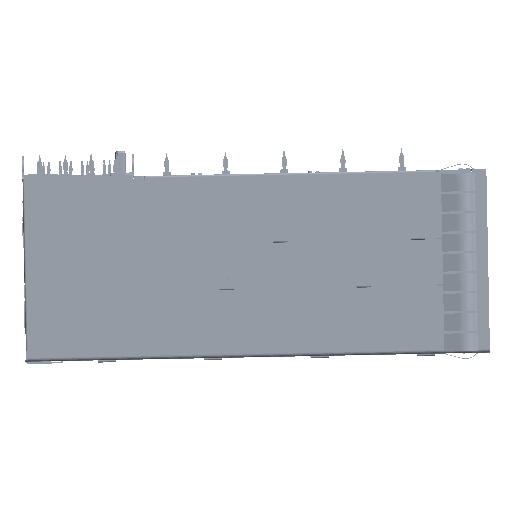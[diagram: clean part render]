
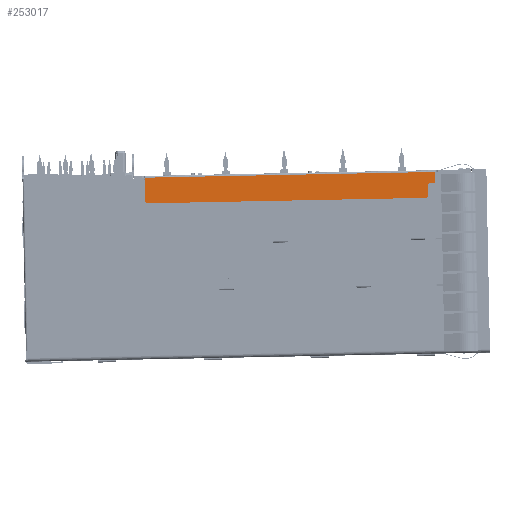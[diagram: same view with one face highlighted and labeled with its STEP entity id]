
A CAD part, left-side view. The second image highlights one B-rep face of the part: STEP entity #253017.
In plain terms, the highlighted planar face has unit normal (-1, 0, 0).
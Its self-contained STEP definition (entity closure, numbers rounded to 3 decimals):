
#75224=DIRECTION('',(0.,-0.02,-1.));
#75225=VECTOR('',#75224,3.5);
#75226=CARTESIAN_POINT('',(0.45,-11.218,23.562));
#75227=LINE('',#75226,#75225);
#75240=DIRECTION('',(0.,-1.,0.02));
#75241=VECTOR('',#75240,39.5);
#75242=CARTESIAN_POINT('',(0.45,-11.218,23.562));
#75243=LINE('',#75242,#75241);
#75244=CARTESIAN_POINT('',(0.45,-50.485,23.089));
#75245=DIRECTION('',(1.,0.,0.));
#75246=DIRECTION('',(0.,-1.,0.02));
#75247=AXIS2_PLACEMENT_3D('',#75244,#75245,#75246);
#75249=CARTESIAN_POINT('',(0.45,-49.995,22.579));
#75250=DIRECTION('',(-1.,0.,0.));
#75251=DIRECTION('',(0.,0.02,1.));
#75252=AXIS2_PLACEMENT_3D('',#75249,#75250,#75251);
#75254=CARTESIAN_POINT('',(0.45,-49.525,21.07));
#75255=DIRECTION('',(1.,0.,0.));
#75256=DIRECTION('',(0.,-1.,0.02));
#75257=AXIS2_PLACEMENT_3D('',#75254,#75255,#75256);
#75263=DIRECTION('',(0.,0.02,1.));
#75264=VECTOR('',#75263,1.25);
#75265=CARTESIAN_POINT('',(0.45,-50.735,23.094));
#75266=LINE('',#75265,#75264);
#75292=DIRECTION('',(0.,-1.,0.02));
#75293=VECTOR('',#75292,0.5);
#75294=CARTESIAN_POINT('',(0.45,-49.99,22.829));
#75295=LINE('',#75294,#75293);
#75300=DIRECTION('',(0.,0.02,1.));
#75301=VECTOR('',#75300,1.5);
#75302=CARTESIAN_POINT('',(0.45,-49.775,21.074));
#75303=LINE('',#75302,#75301);
#75316=DIRECTION('',(0.,-1.,0.02));
#75317=VECTOR('',#75316,38.25);
#75318=CARTESIAN_POINT('',(0.45,-11.287,20.063));
#75319=LINE('',#75318,#75317);
#149838=CARTESIAN_POINT('',(0.45,-11.218,23.562));
#149839=CARTESIAN_POINT('',(0.45,-50.71,
24.344));
#149840=VERTEX_POINT('',#149838);
#149841=VERTEX_POINT('',#149839);
#149842=CARTESIAN_POINT('',(0.45,-50.735,23.094));
#149843=CARTESIAN_POINT('',(0.45,-50.49,22.839));
#149844=VERTEX_POINT('',#149842);
#149845=VERTEX_POINT('',#149843);
#149846=CARTESIAN_POINT('',(0.45,-49.99,22.829));
#149847=VERTEX_POINT('',#149846);
#149848=CARTESIAN_POINT('',(0.45,-49.745,22.574));
#149849=VERTEX_POINT('',#149848);
#149850=CARTESIAN_POINT('',(0.45,-49.775,21.074));
#149851=CARTESIAN_POINT('',(0.45,-49.53,20.82));
#149852=VERTEX_POINT('',#149850);
#149853=VERTEX_POINT('',#149851);
#149854=CARTESIAN_POINT('',(0.45,-11.287,20.063));
#149855=VERTEX_POINT('',#149854);
#252994=CARTESIAN_POINT('',(0.45,-30.999,22.203));
#252995=DIRECTION('',(1.,0.,0.));
#252996=DIRECTION('',(0.,-0.02,-1.));
#252997=AXIS2_PLACEMENT_3D('',#252994,#252995,#252996);
#252998=PLANE('',#252997);
#252999=ORIENTED_EDGE('',*,*,#252985,.T.);
#253001=ORIENTED_EDGE('',*,*,#253000,.F.);
#253003=ORIENTED_EDGE('',*,*,#253002,.T.);
#253005=ORIENTED_EDGE('',*,*,#253004,.F.);
#253007=ORIENTED_EDGE('',*,*,#253006,.T.);
#253009=ORIENTED_EDGE('',*,*,#253008,.F.);
#253011=ORIENTED_EDGE('',*,*,#253010,.T.);
#253013=ORIENTED_EDGE('',*,*,#253012,.F.);
#253014=ORIENTED_EDGE('',*,*,#252972,.F.);
#253015=EDGE_LOOP('',(#252999,#253001,#253003,#253005,#253007,#253009,#253011,
#253013,#253014));
#253016=FACE_OUTER_BOUND('',#253015,.F.);
#75248=CIRCLE('',#75247,0.25);
#75253=CIRCLE('',#75252,0.25);
#75258=CIRCLE('',#75257,0.25);
#252972=EDGE_CURVE('',#149840,#149855,#75227,.T.);
#252985=EDGE_CURVE('',#149840,#149841,#75243,.T.);
#253000=EDGE_CURVE('',#149844,#149841,#75266,.T.);
#253002=EDGE_CURVE('',#149844,#149845,#75248,.T.);
#253004=EDGE_CURVE('',#149847,#149845,#75295,.T.);
#253006=EDGE_CURVE('',#149847,#149849,#75253,.T.);
#253008=EDGE_CURVE('',#149852,#149849,#75303,.T.);
#253010=EDGE_CURVE('',#149852,#149853,#75258,.T.);
#253012=EDGE_CURVE('',#149855,#149853,#75319,.T.);
#253017=ADVANCED_FACE('',(#253016),#252998,.F.);
